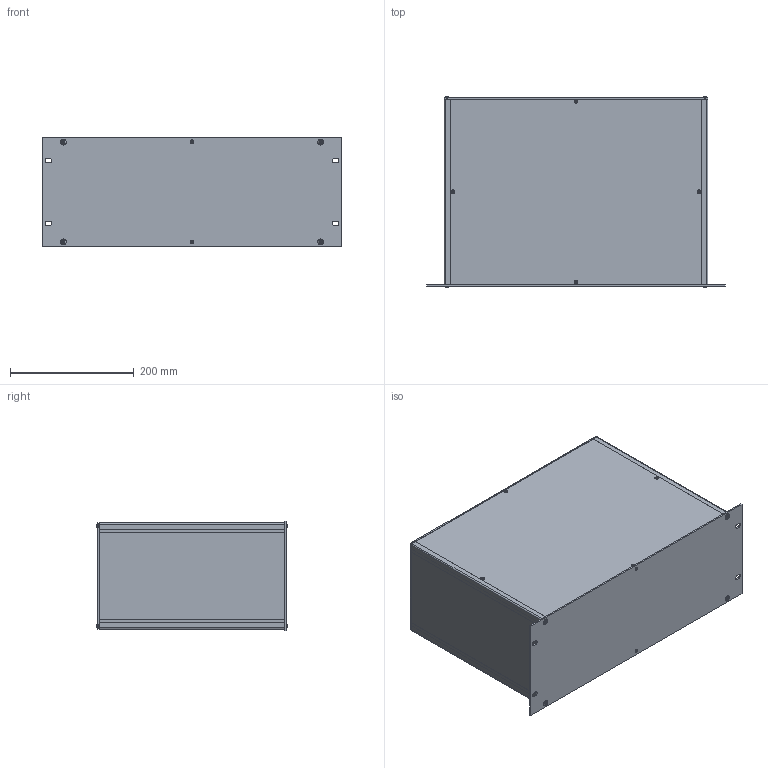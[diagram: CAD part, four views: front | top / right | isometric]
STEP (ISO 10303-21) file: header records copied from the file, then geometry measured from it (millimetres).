
FILE_DESCRIPTION(/* description */ (''),/* implementation_level */ '2;1');
FILE_NAME(/* name */ '//diskstation/Kunden/Gehäuse/Gehäuse/4HE/step/19 Zoll 3HE Rack Gehäuse Tiefe-300.step',/* time_stamp */ '2022-02-17T16:01:05+01:00',/* author */ (''),/* organization */ (''),/* preprocessor_version */ 'ST-DEVELOPER v18.1',/* originating_system */ 'Autodesk Translation Framework v10.10.0.1391',/* authorisation */ '');
FILE_SCHEMA (('AUTOMOTIVE_DESIGN { 1 0 10303 214 3 1 1 }'));
Length unit declared in the file: millimetre
Products named in the file (28): 4HE Gehäuse mit parametern; Gehäuse; Gehäuseprofil 1 unten links; Gehäuseprofil 2 oben rechts; Gehäuseprofil 1 unten rechts; Gehäuseprofil 2 oben links; Rückplatte; Deckel; Seitenteil links; Seitenteil rechts; Bodenplatte; Montageklotz Front/Deckel; Montageklotz Front/Boden; Montageklotz Rück/Deckel; Montageklotz Rück/Boden; Gewindestreifen; Frontplatte; Schrauben M5; Schraube Front; Schraube Front (1); Schraube Front (2); Schraube Front (3); Schraube Rück (1); Schraube Rück; Schraube Rück (2); Schraube Rück (3); Schrauben M3; HI_Senkschraube DIN 965 A v2 M3x5 24677.030.005(High)
Assembly tree (37 placements, depth 3):
  4HE Gehäuse mit parametern
    Gehäuse
      Gehäuseprofil 1 unten links
      Gehäuseprofil 2 oben rechts
      Gehäuseprofil 1 unten rechts
      Gehäuseprofil 2 oben links
      Rückplatte
      Deckel
      Seitenteil links
      Seitenteil rechts
      Bodenplatte
      Montageklotz Front/Deckel
      Montageklotz Front/Boden
      Montageklotz Rück/Deckel
      Montageklotz Rück/Boden
      Gewindestreifen  x2
    Frontplatte
    Schrauben M5
      Schraube Front
      Schraube Front (1)
      Schraube Front (2)
      Schraube Front (3)
      Schraube Rück (1)
      Schraube Rück
      Schraube Rück (2)
      Schraube Rück (3)
    Schrauben M3
      HI_Senkschraube DIN 965 A v2 M3x5 24677.030.005(High)  x10
Bounding box: 483 x 308.2 x 177 mm (x, y, z)
Volume: 1294922.2 mm3; surface area: 1129713.8 mm2
Topology: 34 solids, 34 shells, 874 faces, 2136 edges, 1330 vertices
Faces by surface type: cylinder 352, plane 342, cone 164, torus 8, bspline 8
Full cylindrical faces by diameter (mm): 2.529 x110, 3 x10, 3.2 x10, 4.234 x40, 5 x8, 5.2 x4, 5.3 x8, 5.6 x10, 9.5 x8
Entity records: 17235 total; most frequent: CARTESIAN_POINT 3138, DIRECTION 2890, ORIENTED_EDGE 2550, EDGE_CURVE 1275, AXIS2_PLACEMENT_3D 1090, VERTEX_POINT 798, EDGE_LOOP 761, LINE 710
